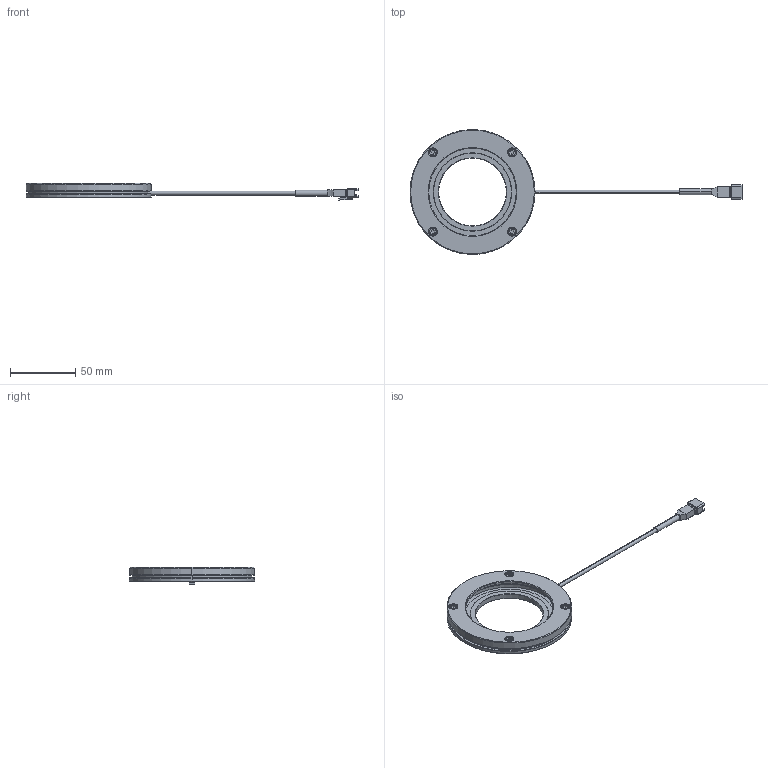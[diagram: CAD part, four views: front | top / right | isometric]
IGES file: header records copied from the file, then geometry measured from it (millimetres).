
Start section: 3D InterOp IGES (v. 2019 1.0.2), Spatial Corp. Copyright (c) 1999-2017.
Global section: file name: VHR-9652_DRAWING_3D.iges; native system: Spatial Corp.; preprocessor: 3D InterOp ACIS/IGES; author: Noname; organization: Noname; date: 20231003.110325; units: millimetre
Bounding box: 254.96 x 96 x 13.25 mm (x, y, z)
Surface area: 28034 mm2 (no closed solid volume)
Topology: 0 solids, 0 shells, 404 faces, 1900 edges, 1900 vertices
Faces by surface type: extrusion 220, revolution 179, bspline 5
